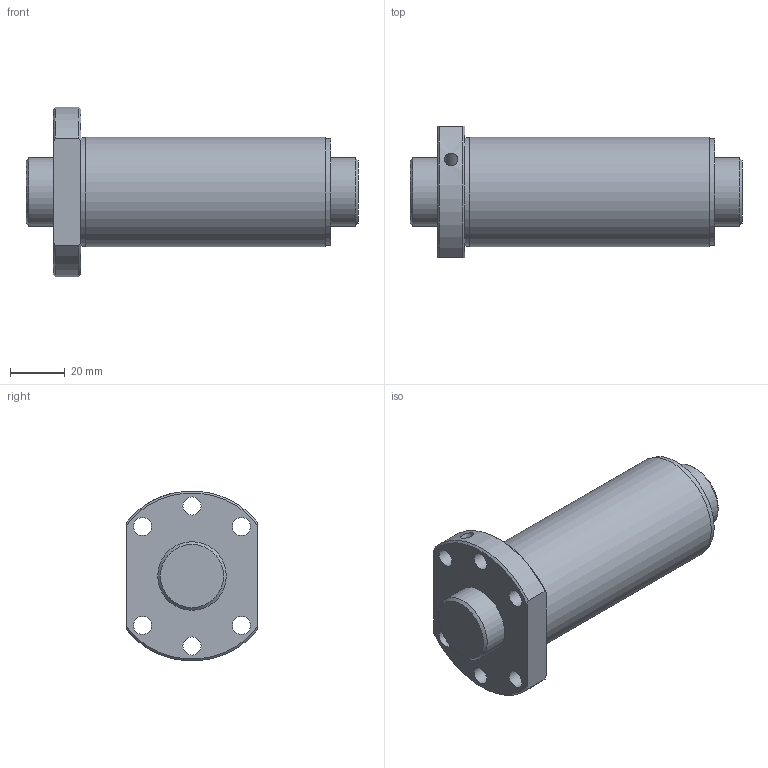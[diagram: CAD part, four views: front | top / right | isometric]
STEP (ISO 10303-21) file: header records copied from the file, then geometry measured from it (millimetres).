
FILE_DESCRIPTION(/* description */ ('STEP AP203'),/* implementation_level */ '2;1');
FILE_NAME(/* name */ 'SDA2550V-2G0+121LC0(0G000)',/* time_stamp */ '2024-05-28T11:31:08+02:00',/* author */ ('License CC BY-ND 4.0'),/* organization */ ('CADENAS'),/* preprocessor_version */ 'ST-DEVELOPER v19.3',/* originating_system */ 'PARTsolutions',/* authorisation */ ' ');
FILE_SCHEMA (('CONFIG_CONTROL_DESIGN'));
Length unit declared in the file: millimetre
Products named in the file (3): SDA2550V-2G0+121LC0(0G000); 000SDA2550V-20Shaft; SDA-V serieSDA2550V-2nut
Assembly tree (2 placements, depth 2):
  SDA2550V-2G0+121LC0(0G000)
    000SDA2550V-20Shaft
    SDA-V serieSDA2550V-2nut
Bounding box: 121 x 48 x 61.8 mm (x, y, z)
Volume: 147948.3 mm3; surface area: 36969.3 mm2
Topology: 2 solids, 2 shells, 31 faces, 74 edges, 50 vertices
Faces by surface type: cylinder 15, plane 9, cone 7
Full cylindrical faces by diameter (mm): 3.9 x1, 4.917 x1, 6.6 x6, 25 x2, 39 x1, 39.6 x1, 40 x1
Entity records: 915 total; most frequent: CARTESIAN_POINT 174, DIRECTION 144, ORIENTED_EDGE 104, AXIS2_PLACEMENT_3D 68, EDGE_LOOP 66, FACE_BOUND 66, EDGE_CURVE 52, VERTEX_POINT 44
